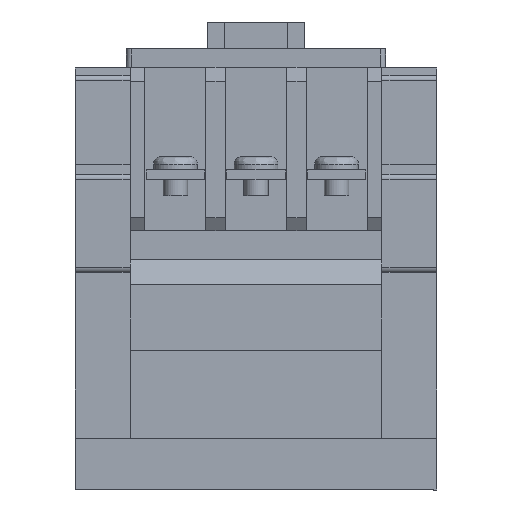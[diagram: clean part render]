
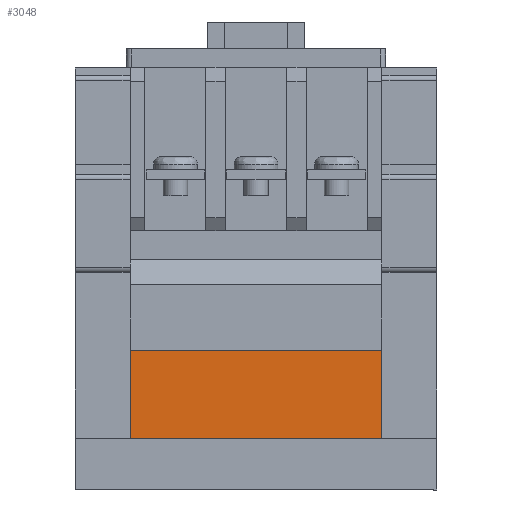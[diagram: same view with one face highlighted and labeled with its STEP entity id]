
A CAD part, front view. The second image highlights one B-rep face of the part: STEP entity #3048.
In plain terms, the highlighted planar face has unit normal (0, -1, 0).
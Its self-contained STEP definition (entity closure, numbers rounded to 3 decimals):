
#2603 = VERTEX_POINT ( 'NONE', #6909 ) ;
#2605 = EDGE_CURVE ( 'NONE', #2606, #2603, #6908, .T. ) ;
#2606 = VERTEX_POINT ( 'NONE', #6904 ) ;
#2971 = ORIENTED_EDGE ( 'NONE', *, *, #2605, .T. ) ;
#3013 = VERTEX_POINT ( 'NONE', #7928 ) ;
#3020 = ORIENTED_EDGE ( 'NONE', *, *, #3021, .F. ) ;
#3021 = EDGE_CURVE ( 'NONE', #2606, #3035, #7956, .T. ) ;
#3033 = ORIENTED_EDGE ( 'NONE', *, *, #3034, .T. ) ;
#3034 = EDGE_CURVE ( 'NONE', #3013, #3035, #8019, .T. ) ;
#3035 = VERTEX_POINT ( 'NONE', #8015 ) ;
#3045 = EDGE_LOOP ( 'NONE', ( #2971, #3058, #3033, #3020 ) ) ;
#3048 = ADVANCED_FACE ( 'NONE', ( #8004 ), #8054, .T. ) ;
#3058 = ORIENTED_EDGE ( 'NONE', *, *, #3219, .T. ) ;
#3219 = EDGE_CURVE ( 'NONE', #2603, #3013, #8505, .T. ) ;
#6904 = CARTESIAN_POINT ( 'NONE',  ( -58., -30.9, 25.8 ) ) ;
#6905 = DIRECTION ( 'NONE',  ( -1., 0., 0. ) ) ;
#6906 = VECTOR ( 'NONE', #6905, 1000. ) ;
#6907 = CARTESIAN_POINT ( 'NONE',  ( -76.1, -30.9, 25.8 ) ) ;
#6908 = LINE ( 'NONE', #6907, #6906 ) ;
#6909 = CARTESIAN_POINT ( 'NONE',  ( -76.1, -30.9, 25.8 ) ) ;
#7928 = CARTESIAN_POINT ( 'NONE',  ( -76.1, -30.9, -25.8 ) ) ;
#7953 = DIRECTION ( 'NONE',  ( 0., 0., -1. ) ) ;
#7954 = VECTOR ( 'NONE', #7953, 1000. ) ;
#7955 = CARTESIAN_POINT ( 'NONE',  ( -58., -30.9, 25.8 ) ) ;
#7956 = LINE ( 'NONE', #7955, #7954 ) ;
#8004 = FACE_OUTER_BOUND ( 'NONE', #3045, .T. ) ;
#8015 = CARTESIAN_POINT ( 'NONE',  ( -58., -30.9, -25.8 ) ) ;
#8016 = DIRECTION ( 'NONE',  ( 1., 0., 0. ) ) ;
#8017 = VECTOR ( 'NONE', #8016, 1000. ) ;
#8018 = CARTESIAN_POINT ( 'NONE',  ( 0., -30.9, -25.8 ) ) ;
#8019 = LINE ( 'NONE', #8018, #8017 ) ;
#8050 = DIRECTION ( 'NONE',  ( 0., 0., -1. ) ) ;
#8051 = DIRECTION ( 'NONE',  ( 0., -1., 0. ) ) ;
#8052 = CARTESIAN_POINT ( 'NONE',  ( -76.1, -30.9, 25.8 ) ) ;
#8053 = AXIS2_PLACEMENT_3D ( 'NONE', #8052, #8051, #8050 ) ;
#8054 = PLANE ( 'NONE',  #8053 ) ;
#8502 = DIRECTION ( 'NONE',  ( 0., 0., -1. ) ) ;
#8503 = VECTOR ( 'NONE', #8502, 1000. ) ;
#8504 = CARTESIAN_POINT ( 'NONE',  ( -76.1, -30.9, 25.8 ) ) ;
#8505 = LINE ( 'NONE', #8504, #8503 ) ;
